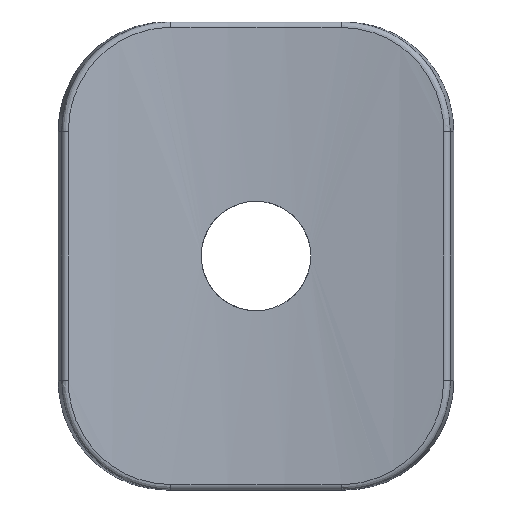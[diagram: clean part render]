
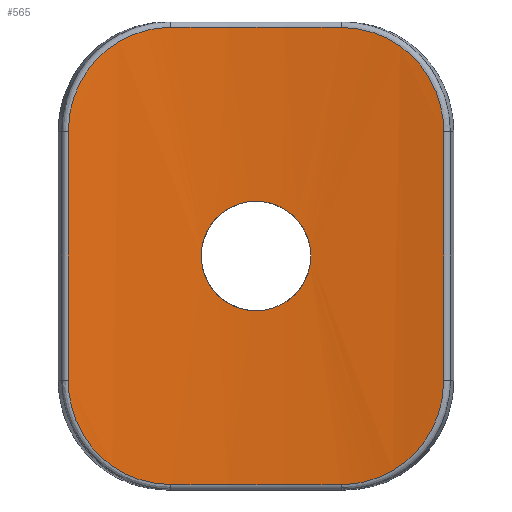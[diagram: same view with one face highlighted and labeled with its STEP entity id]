
A CAD part, front view. The second image highlights one B-rep face of the part: STEP entity #565.
In plain terms, the highlighted cylindrical face has radius 200 mm (diameter 400 mm), a partial arc.
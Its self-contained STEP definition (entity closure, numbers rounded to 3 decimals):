
#15=FACE_BOUND('',#138,.T.);
#43=CYLINDRICAL_SURFACE('',#614,200.);
#58=CIRCLE('',#601,200.);
#63=CIRCLE('',#608,200.);
#98=FACE_OUTER_BOUND('',#137,.T.);
#137=EDGE_LOOP('',(#404,#405,#406,#407,#408,#409,#410,#411));
#138=EDGE_LOOP('',(#412));
#176=LINE('',#994,#193);
#178=LINE('',#1110,#195);
#193=VECTOR('',#665,54.766);
#195=VECTOR('',#683,54.766);
#208=B_SPLINE_CURVE_WITH_KNOTS('',3,(#862,#863,#864,#865,#866,#867,#868,
#869,#870,#871,#872,#873,#874,#875,#876,#877,#878,#879,#880,#881,#882,#883,
#884,#885,#886,#887,#888,#889,#890,#891,#892,#893,#894,#895,#896,#897),
 .UNSPECIFIED.,.T.,.F.,(4,2,2,2,2,2,2,2,2,2,2,2,2,2,2,2,2,4),(0.,0.479,
0.942,1.42,1.883,2.362,2.825,
3.304,3.767,4.247,4.711,5.194,
5.658,6.142,6.606,7.088,7.348,
7.601),.UNSPECIFIED.);
#211=B_SPLINE_CURVE_WITH_KNOTS('',3,(#982,#983,#984,#985,#986,#987,#988),
 .UNSPECIFIED.,.F.,.F.,(4,1,1,1,4),(0.,1.03,1.545,
2.574,3.604),.UNSPECIFIED.);
#213=B_SPLINE_CURVE_WITH_KNOTS('',3,(#1040,#1041,#1042,#1043,#1044,#1045,
#1046),.UNSPECIFIED.,.F.,.F.,(4,1,1,1,4),(0.,0.515,1.545,
2.574,3.604),.UNSPECIFIED.);
#215=B_SPLINE_CURVE_WITH_KNOTS('',3,(#1098,#1099,#1100,#1101,#1102,#1103,
#1104),.UNSPECIFIED.,.F.,.F.,(4,1,1,1,4),(0.,1.03,
1.545,2.574,3.604),.UNSPECIFIED.);
#217=B_SPLINE_CURVE_WITH_KNOTS('',3,(#1156,#1157,#1158,#1159,#1160,#1161,
#1162),.UNSPECIFIED.,.F.,.F.,(4,1,1,1,4),(0.,0.515,1.545,
2.574,3.604),.UNSPECIFIED.);
#232=VERTEX_POINT('',#861);
#234=VERTEX_POINT('',#969);
#237=VERTEX_POINT('',#980);
#238=VERTEX_POINT('',#990);
#240=VERTEX_POINT('',#1030);
#242=VERTEX_POINT('',#1048);
#244=VERTEX_POINT('',#1088);
#246=VERTEX_POINT('',#1106);
#248=VERTEX_POINT('',#1146);
#278=EDGE_CURVE('',#232,#232,#208,.T.);
#284=EDGE_CURVE('',#237,#234,#211,.T.);
#287=EDGE_CURVE('',#234,#238,#176,.T.);
#290=EDGE_CURVE('',#238,#240,#213,.T.);
#293=EDGE_CURVE('',#240,#242,#58,.T.);
#296=EDGE_CURVE('',#242,#244,#215,.T.);
#299=EDGE_CURVE('',#244,#246,#178,.T.);
#302=EDGE_CURVE('',#246,#248,#217,.T.);
#304=EDGE_CURVE('',#248,#237,#63,.T.);
#404=ORIENTED_EDGE('',*,*,#284,.F.);
#405=ORIENTED_EDGE('',*,*,#304,.F.);
#406=ORIENTED_EDGE('',*,*,#302,.F.);
#407=ORIENTED_EDGE('',*,*,#299,.F.);
#408=ORIENTED_EDGE('',*,*,#296,.F.);
#409=ORIENTED_EDGE('',*,*,#293,.F.);
#410=ORIENTED_EDGE('',*,*,#290,.F.);
#411=ORIENTED_EDGE('',*,*,#287,.F.);
#412=ORIENTED_EDGE('',*,*,#278,.T.);
#565=ADVANCED_FACE('',(#98,#15),#43,.F.);
#601=AXIS2_PLACEMENT_3D('',#1052,#674,#675);
#608=AXIS2_PLACEMENT_3D('',#1165,#690,#691);
#614=AXIS2_PLACEMENT_3D('',#1196,#708,#709);
#665=DIRECTION('',(0.,0.,-1.));
#674=DIRECTION('center_axis',(0.,0.,1.));
#675=DIRECTION('ref_axis',(0.,1.,0.));
#683=DIRECTION('',(0.,0.,1.));
#690=DIRECTION('center_axis',(0.,0.,-1.));
#691=DIRECTION('ref_axis',(0.,1.,0.));
#708=DIRECTION('center_axis',(0.,0.,1.));
#709=DIRECTION('ref_axis',(0.213,0.977,0.));
#861=CARTESIAN_POINT('',(12.059,-0.364,0.));
#862=CARTESIAN_POINT('Ctrl Pts',(8.525,-0.182,8.528));
#863=CARTESIAN_POINT('Ctrl Pts',(9.654,-0.23,7.4));
#864=CARTESIAN_POINT('Ctrl Pts',(10.548,-0.277,6.058));
#865=CARTESIAN_POINT('Ctrl Pts',(11.74,-0.344,3.156));
#866=CARTESIAN_POINT('Ctrl Pts',(12.047,-0.363,1.631));
#867=CARTESIAN_POINT('Ctrl Pts',(12.07,-0.365,-1.505));
#868=CARTESIAN_POINT('Ctrl Pts',(11.766,-0.345,-3.086));
#869=CARTESIAN_POINT('Ctrl Pts',(10.579,-0.279,-5.989));
#870=CARTESIAN_POINT('Ctrl Pts',(9.727,-0.234,-7.292));
#871=CARTESIAN_POINT('Ctrl Pts',(7.541,-0.139,-9.544));
#872=CARTESIAN_POINT('Ctrl Pts',(6.212,-0.091,-10.458));
#873=CARTESIAN_POINT('Ctrl Pts',(3.324,-0.023,-11.694));
#874=CARTESIAN_POINT('Ctrl Pts',(1.8,-0.002,
-12.023));
#875=CARTESIAN_POINT('Ctrl Pts',(-1.338,0.002,
-12.09));
#876=CARTESIAN_POINT('Ctrl Pts',(-2.923,-0.016,
-11.807));
#877=CARTESIAN_POINT('Ctrl Pts',(-5.846,-0.08,
-10.66));
#878=CARTESIAN_POINT('Ctrl Pts',(-7.162,-0.125,-9.823));
#879=CARTESIAN_POINT('Ctrl Pts',(-9.445,-0.22,-7.664));
#880=CARTESIAN_POINT('Ctrl Pts',(-10.376,-0.268,-6.348));
#881=CARTESIAN_POINT('Ctrl Pts',(-11.651,-0.339,-3.473));
#882=CARTESIAN_POINT('Ctrl Pts',(-12.,-0.36,-1.951));
#883=CARTESIAN_POINT('Ctrl Pts',(-12.106,-0.367,1.204));
#884=CARTESIAN_POINT('Ctrl Pts',(-11.837,-0.35,2.807));
#885=CARTESIAN_POINT('Ctrl Pts',(-10.709,-0.286,5.755));
#886=CARTESIAN_POINT('Ctrl Pts',(-9.883,-0.242,7.08));
#887=CARTESIAN_POINT('Ctrl Pts',(-7.732,-0.146,9.393));
#888=CARTESIAN_POINT('Ctrl Pts',(-6.409,-0.097,10.34));
#889=CARTESIAN_POINT('Ctrl Pts',(-3.527,-0.026,
11.635));
#890=CARTESIAN_POINT('Ctrl Pts',(-2.005,-0.004,
11.991));
#891=CARTESIAN_POINT('Ctrl Pts',(1.148,0.003,12.111));
#892=CARTESIAN_POINT('Ctrl Pts',(2.749,-0.013,11.85));
#893=CARTESIAN_POINT('Ctrl Pts',(5.063,-0.062,10.979));
#894=CARTESIAN_POINT('Ctrl Pts',(5.839,-0.084,10.586));
#895=CARTESIAN_POINT('Ctrl Pts',(7.273,-0.131,9.655));
#896=CARTESIAN_POINT('Ctrl Pts',(7.929,-0.156,9.124));
#897=CARTESIAN_POINT('Ctrl Pts',(8.525,-0.182,8.528));
#969=CARTESIAN_POINT('',(41.328,-4.317,27.383));
#980=CARTESIAN_POINT('',(18.769,-0.883,50.294));
#982=CARTESIAN_POINT('Ctrl Pts',(18.769,-0.883,50.294));
#983=CARTESIAN_POINT('Ctrl Pts',(22.166,-1.203,50.294));
#984=CARTESIAN_POINT('Ctrl Pts',(27.244,-1.822,49.13));
#985=CARTESIAN_POINT('Ctrl Pts',(34.438,-2.954,44.551));
#986=CARTESIAN_POINT('Ctrl Pts',(39.806,-3.985,37.681));
#987=CARTESIAN_POINT('Ctrl Pts',(41.328,-4.317,30.816));
#988=CARTESIAN_POINT('Ctrl Pts',(41.328,-4.317,27.383));
#990=CARTESIAN_POINT('',(41.328,-4.317,-27.383));
#994=CARTESIAN_POINT('',(41.328,-4.317,0.));
#1030=CARTESIAN_POINT('',(18.769,-0.883,-50.294));
#1040=CARTESIAN_POINT('Ctrl Pts',(41.328,-4.317,-27.383));
#1041=CARTESIAN_POINT('Ctrl Pts',(41.328,-4.317,-29.099));
#1042=CARTESIAN_POINT('Ctrl Pts',(40.767,-4.199,-34.25));
#1043=CARTESIAN_POINT('Ctrl Pts',(37.048,-3.427,-42.177));
#1044=CARTESIAN_POINT('Ctrl Pts',(28.942,-2.029,-48.747));
#1045=CARTESIAN_POINT('Ctrl Pts',(22.166,-1.203,-50.294));
#1046=CARTESIAN_POINT('Ctrl Pts',(18.769,-0.883,-50.294));
#1048=CARTESIAN_POINT('',(-18.769,-0.883,-50.294));
#1052=CARTESIAN_POINT('Origin',(0.,-200.,-50.294));
#1088=CARTESIAN_POINT('',(-41.328,-4.317,-27.383));
#1098=CARTESIAN_POINT('Ctrl Pts',(-18.769,-0.883,
-50.294));
#1099=CARTESIAN_POINT('Ctrl Pts',(-22.166,-1.203,-50.294));
#1100=CARTESIAN_POINT('Ctrl Pts',(-27.244,-1.822,-49.13));
#1101=CARTESIAN_POINT('Ctrl Pts',(-34.438,-2.954,-44.551));
#1102=CARTESIAN_POINT('Ctrl Pts',(-39.806,-3.985,-37.681));
#1103=CARTESIAN_POINT('Ctrl Pts',(-41.328,-4.317,-30.816));
#1104=CARTESIAN_POINT('Ctrl Pts',(-41.328,-4.317,-27.383));
#1106=CARTESIAN_POINT('',(-41.328,-4.317,27.383));
#1110=CARTESIAN_POINT('',(-41.328,-4.317,0.));
#1146=CARTESIAN_POINT('',(-18.769,-0.883,50.294));
#1156=CARTESIAN_POINT('Ctrl Pts',(-41.328,-4.317,27.383));
#1157=CARTESIAN_POINT('Ctrl Pts',(-41.328,-4.317,29.099));
#1158=CARTESIAN_POINT('Ctrl Pts',(-40.767,-4.199,34.25));
#1159=CARTESIAN_POINT('Ctrl Pts',(-37.048,-3.427,42.177));
#1160=CARTESIAN_POINT('Ctrl Pts',(-28.942,-2.029,48.747));
#1161=CARTESIAN_POINT('Ctrl Pts',(-22.166,-1.203,50.294));
#1162=CARTESIAN_POINT('Ctrl Pts',(-18.769,-0.883,
50.294));
#1165=CARTESIAN_POINT('Origin',(0.,-200.,50.294));
#1196=CARTESIAN_POINT('Origin',(0.,-200.,0.));
